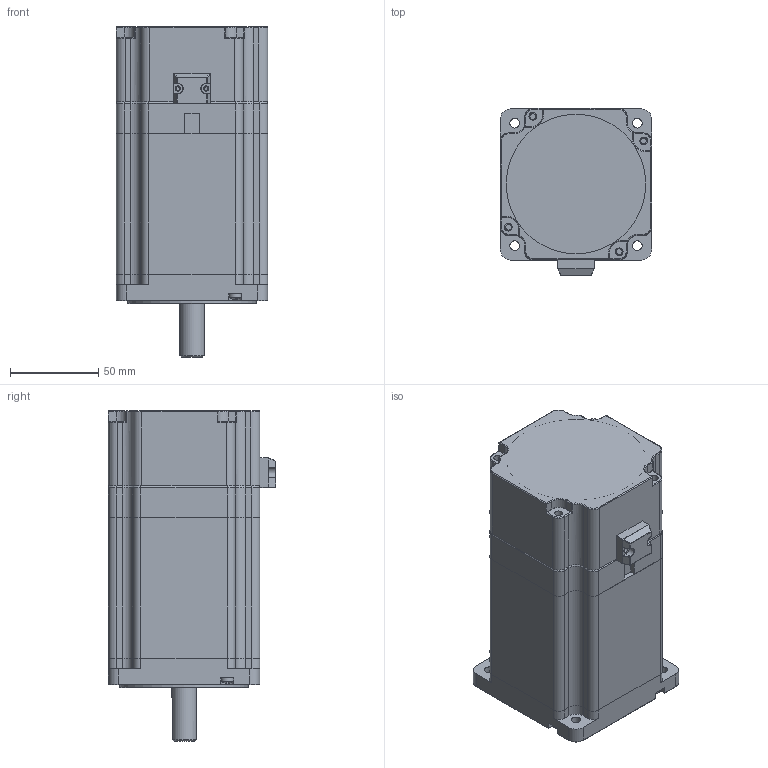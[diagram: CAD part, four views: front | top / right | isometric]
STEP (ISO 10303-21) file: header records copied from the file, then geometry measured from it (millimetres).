
FILE_DESCRIPTION (( 'STEP AP203' ), '1' );
FILE_NAME ('YK86HB118-4432K-01SC.STEP', '2020-01-03T08:10:38', ( '' ), ( '' ), 'SwSTEP 2.0', 'SolidWorks 2014', '' );
FILE_SCHEMA (( 'CONFIG_CONTROL_DESIGN' ));
Length unit declared in the file: millimetre
Products named in the file (19): 敕遠M4.0蹟佪; YK286ECXXA1隅赽; 86BK-揤盄輸; YK286ECXXA1ヶ裔; 86BK-綴欶; YK286ECXXA1粣郋; YK86HB118-4432K-01SC; 86BK; YK286ECXXA1綴裔
Assembly tree (11 placements, depth 3):
  敕遠M4.0蹟佪
  YK286ECXXA1隅赽
  86BK-揤盄輸
  YK286ECXXA1ヶ裔
  86BK-綴欶
Bounding box: 86 x 95 x 187.5 mm (x, y, z)
Volume: 615942.5 mm3; surface area: 143694.4 mm2
Topology: 10 solids, 10 shells, 533 faces, 1257 edges, 741 vertices
Faces by surface type: plane 243, cylinder 196, torus 48, bspline 17, cone 16, sphere 13
Full cylindrical faces by diameter (mm): 2.05 x2, 3 x2, 3.3 x8, 4 x4, 4.4 x4, 4.5 x4, 5.5 x4, 7.2 x4, 14 x1, 15 x1, 16 x2, 35 x2, 55.96 x1, 73 x1
Entity records: 14856 total; most frequent: CARTESIAN_POINT 2775, DIRECTION 2258, ORIENTED_EDGE 2034, EDGE_CURVE 1017, AXIS2_PLACEMENT_3D 864, VERTEX_POINT 643, EDGE_LOOP 552, LINE 530
